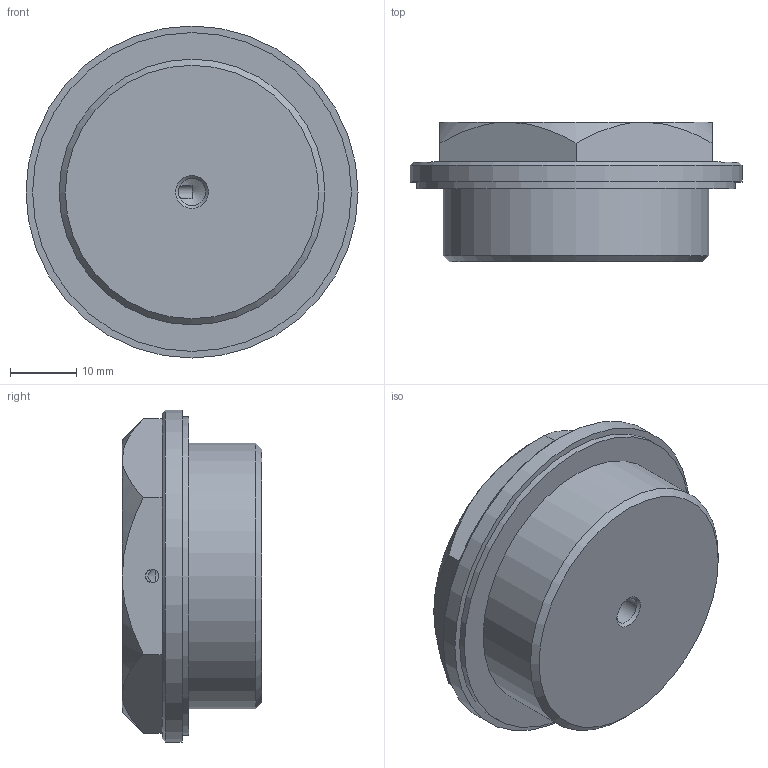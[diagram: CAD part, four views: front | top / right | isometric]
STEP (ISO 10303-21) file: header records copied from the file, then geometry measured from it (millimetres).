
FILE_DESCRIPTION( ( 'STEP AP203' ), '1' );
FILE_NAME( 'C:/Temp/Ganter_Step_05_03_2020/data/3_5/gn742/gn742_2/Threaded plug GN 742-50-M40x1,5-AS-2.stp', '2020-03-12T13:39:24', ( 'License CC BY-ND 4.0' ), ( 'CADENAS' ), ' ', 'PARTsolutions', ' ' );
FILE_SCHEMA( ( 'CONFIG_CONTROL_DESIGN' ) );
Length unit declared in the file: millimetre
Products named in the file (1): _Threaded plug GN 742-50-M40x1,5-AS-2
Bounding box: 50 x 21 x 50 mm (x, y, z)
Volume: 29769.4 mm3; surface area: 6896.1 mm2
Topology: 1 solids, 1 shells, 54 faces, 134 edges, 86 vertices
Faces by surface type: plane 39, cone 10, cylinder 5
Full cylindrical faces by diameter (mm): 2 x1, 4.134 x1, 40 x1, 48 x1, 50 x1
Entity records: 1651 total; most frequent: CARTESIAN_POINT 381, ORIENTED_EDGE 246, DIRECTION 237, EDGE_CURVE 123, LINE 89, VECTOR 89, VERTEX_POINT 84, AXIS2_PLACEMENT_3D 74
